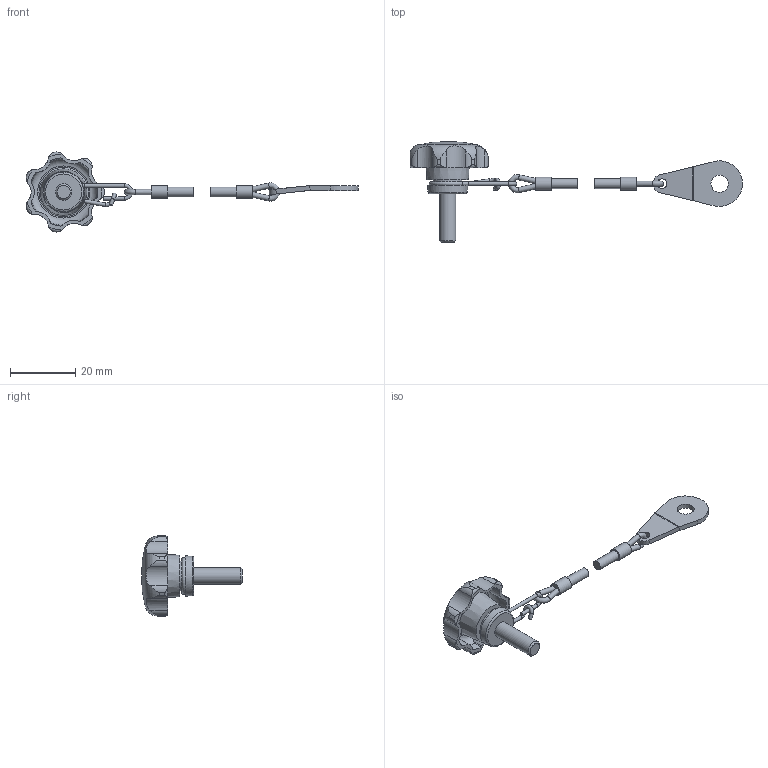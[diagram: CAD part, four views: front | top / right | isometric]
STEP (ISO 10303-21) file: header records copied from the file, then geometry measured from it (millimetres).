
FILE_DESCRIPTION( ( 'STEP AP203' ), '1' );
FILE_NAME( 'C:/Temp/Ganter_Step_05_03_2020/data/2_2/gn_6336_13/gn_6336_13_2/Star knob GN 6336.13-25-M5-15-H.stp', '2020-03-05T12:11:25', ( 'License CC BY-ND 4.0' ), ( 'CADENAS' ), ' ', 'PARTsolutions', ' ' );
FILE_SCHEMA( ( 'CONFIG_CONTROL_DESIGN' ) );
Length unit declared in the file: millimetre
Products named in the file (3): Star knob GN 6336.13-25-M5-15-H; _Star knob GN 6336.13-25-M5-15-H 6; _Star knob GN 111.2-200-14 h2
Assembly tree (2 placements, depth 2):
  Star knob GN 6336.13-25-M5-15-H
    _Star knob GN 6336.13-25-M5-15-H 6
    _Star knob GN 111.2-200-14 h2
Bounding box: 101.94 x 31 x 24.58 mm (x, y, z)
Volume: 4026.6 mm3; surface area: 3705.6 mm2
Topology: 2 solids, 2 shells, 137 faces, 376 edges, 244 vertices
Faces by surface type: cylinder 73, plane 32, torus 20, cone 11, sphere 1
Full cylindrical faces by diameter (mm): 1.1 x6, 1.6 x4, 3 x3, 4 x2, 5 x1, 5.3 x1, 9.1 x1
Entity records: 4849 total; most frequent: CARTESIAN_POINT 1530, DIRECTION 667, ORIENTED_EDGE 636, EDGE_CURVE 318, AXIS2_PLACEMENT_3D 287, VERTEX_POINT 230, EDGE_LOOP 189, FACE_OUTER_BOUND 167
